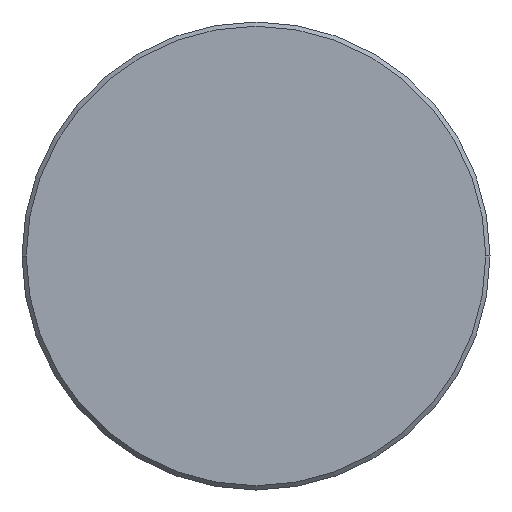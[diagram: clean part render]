
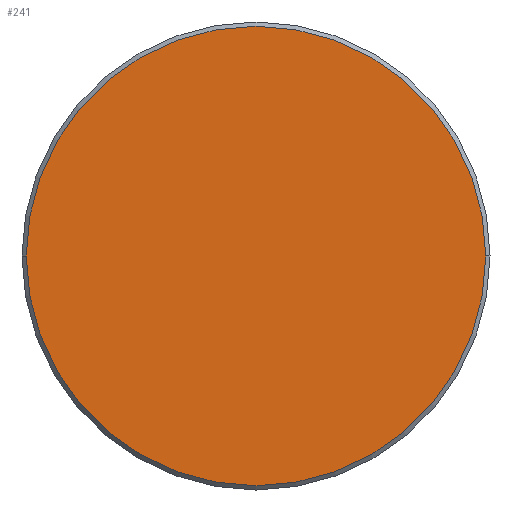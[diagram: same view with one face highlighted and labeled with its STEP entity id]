
A CAD part, left-side view. The second image highlights one B-rep face of the part: STEP entity #241.
In plain terms, the highlighted planar face has unit normal (-1, 0, 0).
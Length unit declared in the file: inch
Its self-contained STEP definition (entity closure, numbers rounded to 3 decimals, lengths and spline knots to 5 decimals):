
#23 = DIRECTION ( 'NONE',  ( -1., 0., 0. ) ) ;
#31 = DIRECTION ( 'NONE',  ( -1., 0., 0. ) ) ;
#129 = CARTESIAN_POINT ( 'NONE',  ( 0., 0., 0. ) ) ;
#136 = CARTESIAN_POINT ( 'NONE',  ( 0., -0.21475, 0. ) ) ;
#159 = ORIENTED_EDGE ( 'NONE', *, *, #185, .T. ) ;
#168 = CARTESIAN_POINT ( 'NONE',  ( 0., 0., 0. ) ) ;
#178 = AXIS2_PLACEMENT_3D ( 'NONE', #129, #381, #211 ) ;
#185 = EDGE_CURVE ( 'NONE', #305, #350, #217, .T. ) ;
#211 = DIRECTION ( 'NONE',  ( 0., -1., 0. ) ) ;
#217 = CIRCLE ( 'NONE', #379, 0.21475 ) ;
#241 = ADVANCED_FACE ( 'NONE', ( #314 ), #272, .T. ) ;
#272 = PLANE ( 'NONE',  #178 ) ;
#295 = DIRECTION ( 'NONE',  ( 0., -1., 0. ) ) ;
#301 = CARTESIAN_POINT ( 'NONE',  ( 0., 0.21475, 0. ) ) ;
#305 = VERTEX_POINT ( 'NONE', #136 ) ;
#306 = AXIS2_PLACEMENT_3D ( 'NONE', #168, #31, #332 ) ;
#314 = FACE_OUTER_BOUND ( 'NONE', #367, .T. ) ;
#323 = CARTESIAN_POINT ( 'NONE',  ( 0., 0., 0. ) ) ;
#332 = DIRECTION ( 'NONE',  ( 0., -1., 0. ) ) ;
#333 = EDGE_CURVE ( 'NONE', #350, #305, #362, .T. ) ;
#342 = ORIENTED_EDGE ( 'NONE', *, *, #333, .T. ) ;
#350 = VERTEX_POINT ( 'NONE', #301 ) ;
#362 = CIRCLE ( 'NONE', #306, 0.21475 ) ;
#367 = EDGE_LOOP ( 'NONE', ( #342, #159 ) ) ;
#379 = AXIS2_PLACEMENT_3D ( 'NONE', #323, #23, #295 ) ;
#381 = DIRECTION ( 'NONE',  ( -1., 0., 0. ) ) ;
